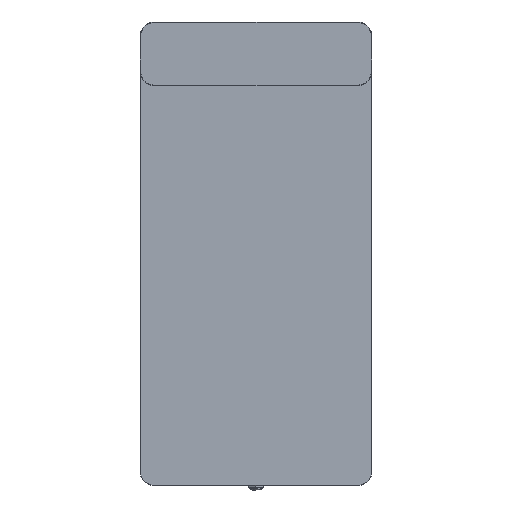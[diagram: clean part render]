
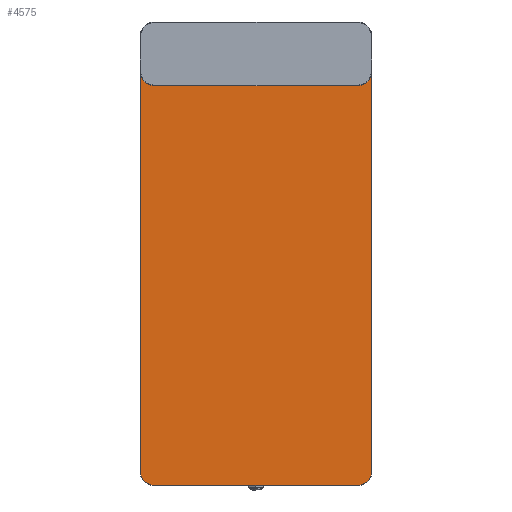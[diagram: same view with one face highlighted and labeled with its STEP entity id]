
A CAD part, front view. The second image highlights one B-rep face of the part: STEP entity #4575.
In plain terms, the highlighted planar face has unit normal (0, -1, 0) as drawn and (0, 0, 1) by its records, which use the part's own axes.
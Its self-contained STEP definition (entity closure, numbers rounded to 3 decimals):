
#268=PLANE('',#5043);
#458=FACE_OUTER_BOUND('',#718,.T.);
#718=EDGE_LOOP('',(#3518,#3519,#3520,#3521,#3522,#3523,#3524,#3525));
#1099=LINE('',#7076,#1567);
#1112=LINE('',#7114,#1580);
#1117=LINE('',#7130,#1585);
#1118=LINE('',#7134,#1586);
#1567=VECTOR('',#5703,1000.);
#1580=VECTOR('',#5742,1000.);
#1585=VECTOR('',#5759,1000.);
#1586=VECTOR('',#5762,1000.);
#1935=CIRCLE('',#5023,25.);
#1936=CIRCLE('',#5026,25.);
#1943=CIRCLE('',#5044,24.5);
#1944=CIRCLE('',#5045,24.5);
#2172=VERTEX_POINT('',#7069);
#2173=VERTEX_POINT('',#7071);
#2174=VERTEX_POINT('',#7075);
#2175=VERTEX_POINT('',#7079);
#2186=VERTEX_POINT('',#7113);
#2191=VERTEX_POINT('',#7129);
#2192=VERTEX_POINT('',#7131);
#2193=VERTEX_POINT('',#7133);
#2658=EDGE_CURVE('',#2173,#2172,#1935,.T.);
#2659=EDGE_CURVE('',#2174,#2173,#1099,.T.);
#2661=EDGE_CURVE('',#2175,#2174,#1936,.T.);
#2678=EDGE_CURVE('',#2172,#2186,#1112,.T.);
#2686=EDGE_CURVE('',#2175,#2191,#1117,.T.);
#2687=EDGE_CURVE('',#2191,#2192,#1943,.T.);
#2688=EDGE_CURVE('',#2192,#2193,#1118,.T.);
#2689=EDGE_CURVE('',#2193,#2186,#1944,.T.);
#3518=ORIENTED_EDGE('',*,*,#2659,.F.);
#3519=ORIENTED_EDGE('',*,*,#2661,.F.);
#3520=ORIENTED_EDGE('',*,*,#2686,.T.);
#3521=ORIENTED_EDGE('',*,*,#2687,.T.);
#3522=ORIENTED_EDGE('',*,*,#2688,.T.);
#3523=ORIENTED_EDGE('',*,*,#2689,.T.);
#3524=ORIENTED_EDGE('',*,*,#2678,.F.);
#3525=ORIENTED_EDGE('',*,*,#2658,.F.);
#4575=ADVANCED_FACE('',(#458),#268,.T.);
#5023=AXIS2_PLACEMENT_3D('',#7073,#5699,#5700);
#5026=AXIS2_PLACEMENT_3D('',#7080,#5707,#5708);
#5043=AXIS2_PLACEMENT_3D('',#7128,#5757,#5758);
#5044=AXIS2_PLACEMENT_3D('',#7132,#5760,#5761);
#5045=AXIS2_PLACEMENT_3D('',#7135,#5763,#5764);
#5699=DIRECTION('center_axis',(0.,0.,1.));
#5700=DIRECTION('ref_axis',(1.,0.,0.));
#5703=DIRECTION('',(1.,0.,0.));
#5707=DIRECTION('center_axis',(0.,0.,1.));
#5708=DIRECTION('ref_axis',(1.,0.,0.));
#5742=DIRECTION('',(0.,-1.,0.));
#5757=DIRECTION('center_axis',(0.,0.,1.));
#5758=DIRECTION('ref_axis',(1.,0.,0.));
#5759=DIRECTION('',(0.,-1.,0.));
#5760=DIRECTION('center_axis',(0.,0.,1.));
#5761=DIRECTION('ref_axis',(-1.,0.,0.));
#5762=DIRECTION('',(1.,0.,0.));
#5763=DIRECTION('center_axis',(0.,0.,1.));
#5764=DIRECTION('ref_axis',(-1.,0.,0.));
#7069=CARTESIAN_POINT('',(320.654,50.097,5.));
#7071=CARTESIAN_POINT('',(296.154,30.072,5.));
#7073=CARTESIAN_POINT('Origin',(296.154,55.072,5.));
#7075=CARTESIAN_POINT('',(-53.846,30.072,5.));
#7076=CARTESIAN_POINT('',(296.154,30.072,5.));
#7079=CARTESIAN_POINT('',(-78.346,50.097,5.));
#7080=CARTESIAN_POINT('Origin',(-53.846,55.072,5.));
#7113=CARTESIAN_POINT('',(320.654,-634.928,5.));
#7114=CARTESIAN_POINT('',(320.654,-59.928,5.));
#7128=CARTESIAN_POINT('Origin',(121.154,-259.928,5.));
#7129=CARTESIAN_POINT('',(-78.346,-634.928,5.));
#7130=CARTESIAN_POINT('',(-78.346,-259.928,5.));
#7131=CARTESIAN_POINT('',(-53.846,-659.428,5.));
#7132=CARTESIAN_POINT('Origin',(-53.846,-634.928,5.));
#7133=CARTESIAN_POINT('',(296.154,-659.428,5.));
#7134=CARTESIAN_POINT('',(121.154,-659.428,5.));
#7135=CARTESIAN_POINT('Origin',(296.154,-634.928,5.));
